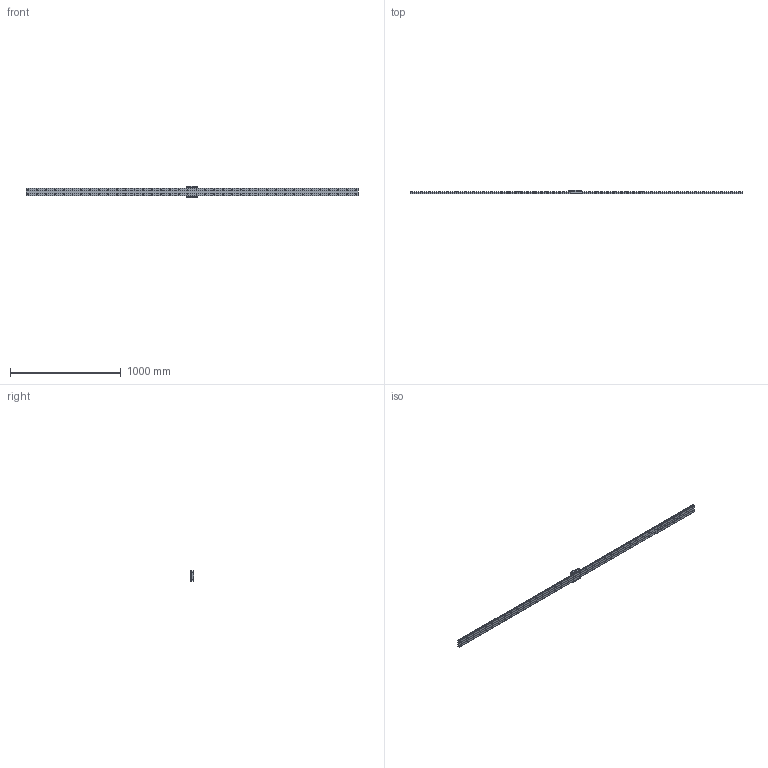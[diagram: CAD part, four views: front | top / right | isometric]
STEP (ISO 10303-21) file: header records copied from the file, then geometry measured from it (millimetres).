
FILE_DESCRIPTION(/* description */ ('STEP AP214'),/* implementation_level */ '2;1');
FILE_NAME(/* name */ 'HRW35CR1SS-3000L_G20_0_B-M6F_1446-7_0_0_0_1',/* time_stamp */ '2023-09-26T15:13:54+02:00',/* author */ ('License CC BY-ND 4.0'),/* organization */ ('CADENAS'),/* preprocessor_version */ 'ST-DEVELOPER v19.3',/* originating_system */ 'PARTsolutions',/* authorisation */ ' ');
FILE_SCHEMA (('AUTOMOTIVE_DESIGN {1 0 10303 214 3 1 1}'));
Length unit declared in the file: millimetre
Products named in the file (4): HRW35CR1SS-3000L_G20_0_B-M6F_1446-7_0_0_0_1; HRW-B-M6F_grease_nipple_joint; HRW35CRSSB-M6F1 Slide17-60; HRW35CR300020 Track
Assembly tree (3 placements, depth 2):
  HRW35CR1SS-3000L_G20_0_B-M6F_1446-7_0_0_0_1
    HRW-B-M6F_grease_nipple_joint
    HRW35CRSSB-M6F1 Slide17-60
    HRW35CR300020 Track
Bounding box: 3000 x 35 x 100 mm (x, y, z)
Volume: 3709670.7 mm3; surface area: 621793.2 mm2
Topology: 3 solids, 3 shells, 452 faces, 1054 edges, 691 vertices
Faces by surface type: plane 236, cylinder 180, cone 25, torus 8, sphere 3
Full cylindrical faces by diameter (mm): 3 x6, 4.917 x2, 6 x1, 6.647 x6, 7 x76, 8 x3, 11 x76
Entity records: 12333 total; most frequent: DIRECTION 2124, CARTESIAN_POINT 2083, ORIENTED_EDGE 1684, FACE_BOUND 897, EDGE_LOOP 891, AXIS2_PLACEMENT_3D 850, EDGE_CURVE 842, VERTEX_POINT 685
